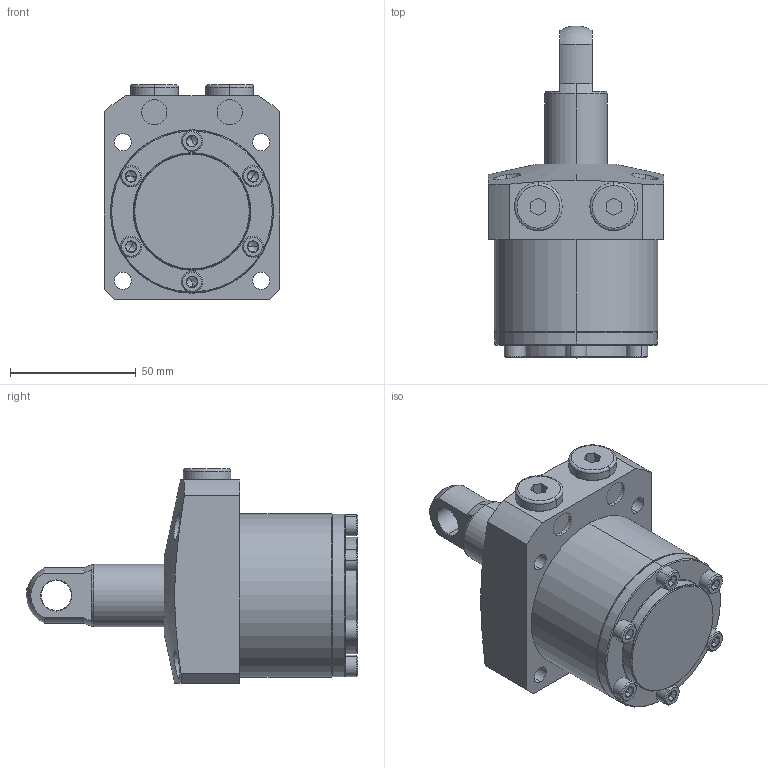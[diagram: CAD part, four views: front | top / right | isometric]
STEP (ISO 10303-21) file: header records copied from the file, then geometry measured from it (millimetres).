
FILE_DESCRIPTION (( 'STEP AP203' ), '1' );
FILE_NAME ('680650-CP-030.step', '2016-11-02T03:25:45', ( 'wxp' ), ( '' ), 'SwSTEP 2.0', 'SolidWorks 2011', '' );
FILE_SCHEMA (( 'CONFIG_CONTROL_DESIGN' ));
Length unit declared in the file: millimetre
Products named in the file (6): 680650-CP-030; 葩璃 680650-CA-15-14^680650-CP-030; 葩璃 68065-CA-15-5^680650-CP-030; 葩璃 68065-CA-15-4^680650-CP-030; 葩璃 68065-CA-15-3^680650-CP-030; 葩璃 68065-CA-15-1^680650-CP-030
Assembly tree (11 placements, depth 2):
  680650-CP-030
    葩璃 680650-CA-15-14^680650-CP-030
    葩璃 68065-CA-15-5^680650-CP-030  x2
    葩璃 68065-CA-15-4^680650-CP-030  x6
    葩璃 68065-CA-15-1^680650-CP-030
    葩璃 68065-CA-15-3^680650-CP-030
Bounding box: 70 x 132 x 85.5 mm (x, y, z)
Volume: 309170.5 mm3; surface area: 49685.7 mm2
Topology: 11 solids, 11 shells, 342 faces, 672 edges, 368 vertices
Faces by surface type: plane 137, cone 96, cylinder 91, torus 16, sphere 2
Entity records: 5638 total; most frequent: CARTESIAN_POINT 1183, DIRECTION 853, ORIENTED_EDGE 692, AXIS2_PLACEMENT_3D 358, EDGE_CURVE 346, VERTEX_POINT 211, EDGE_LOOP 199, CIRCLE 183
